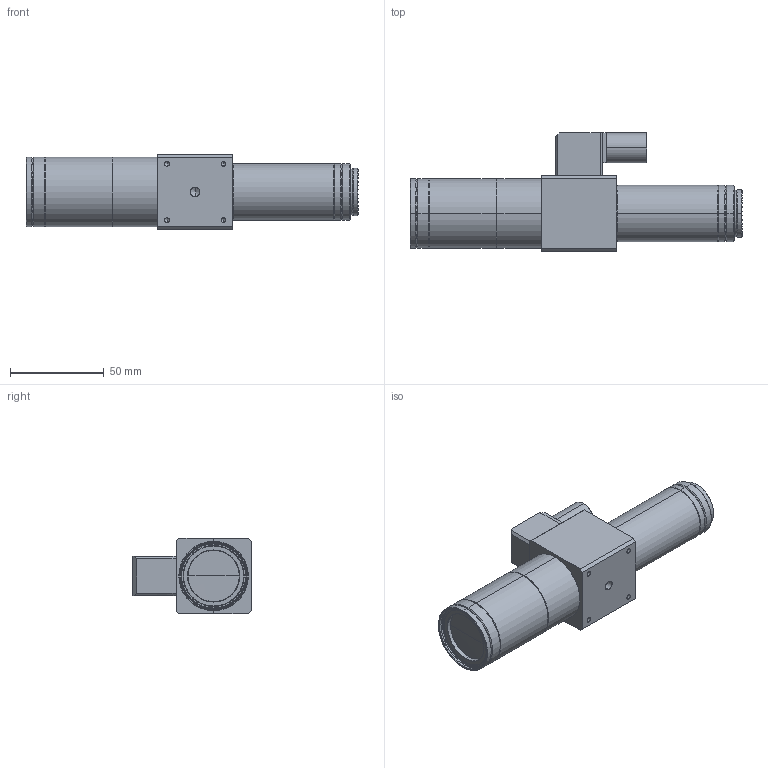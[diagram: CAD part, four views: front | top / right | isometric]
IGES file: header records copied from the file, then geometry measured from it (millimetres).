
Start section: SolidWorks IGES file using analytic representation for surfaces
Bounding box: 176.8 x 63 x 40 mm (x, y, z)
Surface area: 32798.6 mm2 (no closed solid volume)
Topology: 0 solids, 0 shells, 165 faces, 1980 edges, 1970 vertices
Faces by surface type: revolution 134, bspline 31
